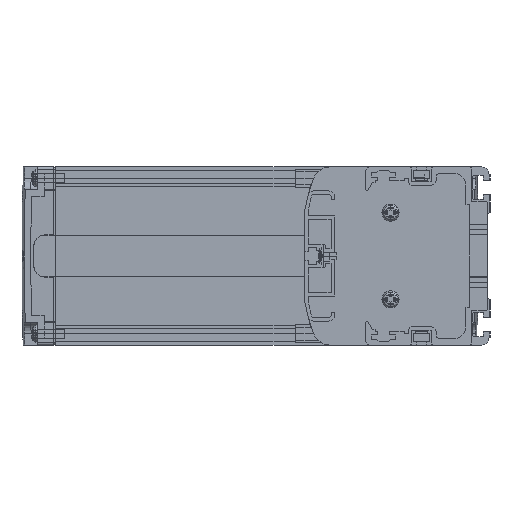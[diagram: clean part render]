
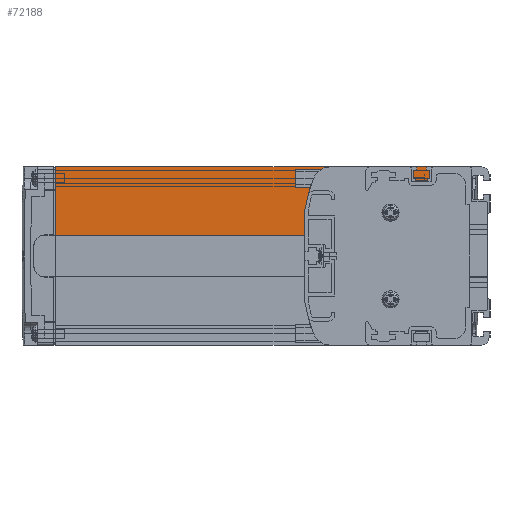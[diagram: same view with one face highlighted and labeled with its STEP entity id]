
A CAD part, left-side view. The second image highlights one B-rep face of the part: STEP entity #72188.
In plain terms, the highlighted planar face has unit normal (-1, 0, 0).
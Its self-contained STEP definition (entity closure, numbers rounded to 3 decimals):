
#70129=DIRECTION('',(0.,-1.,0.));
#70130=VECTOR('',#70129,51.);
#70131=CARTESIAN_POINT('',(3.,71.,27.));
#70132=LINE('',#70131,#70130);
#70778=DIRECTION('',(0.,-1.,0.));
#70779=VECTOR('',#70778,170.);
#70780=CARTESIAN_POINT('',(3.,190.,39.));
#70781=LINE('',#70780,#70779);
#70796=DIRECTION('',(0.,0.,-1.));
#70797=VECTOR('',#70796,29.9);
#70798=CARTESIAN_POINT('',(3.,190.,39.));
#70799=LINE('',#70798,#70797);
#70800=DIRECTION('',(0.,0.,1.));
#70801=VECTOR('',#70800,12.);
#70802=CARTESIAN_POINT('',(3.,20.,27.));
#70803=LINE('',#70802,#70801);
#70804=DIRECTION('',(0.,0.,1.));
#70805=VECTOR('',#70804,17.9);
#70806=CARTESIAN_POINT('',(3.,71.,9.1));
#70807=LINE('',#70806,#70805);
#70914=DIRECTION('',(0.,-1.,0.));
#70915=VECTOR('',#70914,119.);
#70916=CARTESIAN_POINT('',(3.,190.,9.1));
#70917=LINE('',#70916,#70915);
#71001=CARTESIAN_POINT('',(3.,20.,27.));
#71003=VERTEX_POINT('',#71001);
#71095=CARTESIAN_POINT('',(3.,20.,39.));
#71096=VERTEX_POINT('',#71095);
#71169=CARTESIAN_POINT('',(3.,190.,39.));
#71170=VERTEX_POINT('',#71169);
#71171=CARTESIAN_POINT('',(3.,190.,9.1));
#71172=VERTEX_POINT('',#71171);
#71233=CARTESIAN_POINT('',(3.,71.,27.));
#71234=VERTEX_POINT('',#71233);
#71235=CARTESIAN_POINT('',(3.,71.,9.1));
#71236=VERTEX_POINT('',#71235);
#72173=CARTESIAN_POINT('',(3.,105.,24.05));
#72174=DIRECTION('',(1.,0.,0.));
#72175=DIRECTION('',(0.,0.,1.));
#72176=AXIS2_PLACEMENT_3D('',#72173,#72174,#72175);
#72177=PLANE('',#72176);
#72178=ORIENTED_EDGE('',*,*,#71419,.F.);
#72180=ORIENTED_EDGE('',*,*,#72179,.F.);
#72182=ORIENTED_EDGE('',*,*,#72181,.F.);
#72183=ORIENTED_EDGE('',*,*,#71747,.F.);
#72184=ORIENTED_EDGE('',*,*,#72161,.T.);
#72185=ORIENTED_EDGE('',*,*,#71288,.F.);
#72186=EDGE_LOOP('',(#72178,#72180,#72182,#72183,#72184,#72185));
#72187=FACE_OUTER_BOUND('',#72186,.F.);
#72188=ADVANCED_FACE('',(#72187),#72177,.F.);
#71288=EDGE_CURVE('',#71003,#71096,#70803,.T.);
#71419=EDGE_CURVE('',#71234,#71003,#70132,.T.);
#71747=EDGE_CURVE('',#71170,#71172,#70799,.T.);
#72161=EDGE_CURVE('',#71170,#71096,#70781,.T.);
#72179=EDGE_CURVE('',#71236,#71234,#70807,.T.);
#72181=EDGE_CURVE('',#71172,#71236,#70917,.T.);
